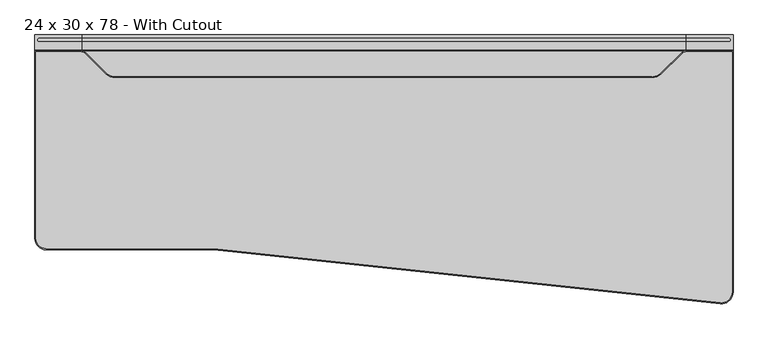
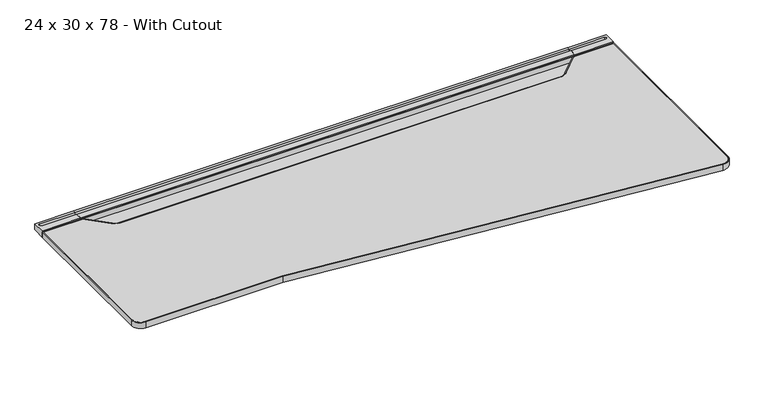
"""IFC4 building model written with IfcOpenShell, lengths in millimetres: furniture geometry, Steelcase - C Scape - Desking - Right Hand Transition - Non Sliding : 24 x 30 x 78 - With Cutout."""

from ifc_helpers import new_model, si_unit, point, frame, frame_2d, origin, place, context, project, spatial, polyline, circle_curve, trimmed, segment, composite_curve, outline, extrude, faceted_brep, source, transform, mapped, element, save
from ifc_brep_helpers import plane_surface, revolved_surface, advanced_brep


def furniture_24_x_30_x_78_with_cutout_9f279deb(model_context):
    return source(origin(), model_context, "Body", "SolidModel", [
        advanced_brep(
        [(1848.1802124, -45.3135132, 703.3768), (1848.1802124, -45.3135132, 722.4268341), (1848.1802124, -42.7750923, 722.4268341), (1848.1802124, -42.7750923, 725.932), (1848.1802124, -19.3290527, 725.932), (1848.1802124, -19.3290527, 713.486), (1848.1802124, -8.5111084, 713.486), (1848.1802124, -8.5111084, 725.932), (1848.1802124, 0.0, 725.932), (1848.1802124, 0.0, 705.1038636), (1848.1802124, -3.2278472, 705.1038636), (1848.1802124, -4.0331902, 703.3768), (1981.2, -45.3135132, 703.3768), (1981.2, -4.0331902, 703.3768), (1981.2, -3.2278472, 705.1038636), (1981.2, 0.0, 705.1038636), (1981.2, 0.0, 725.932), (1981.2, -42.7750923, 725.932), (1981.2, -42.7750923, 722.4268341), (1981.2, -45.3135132, 722.4268341), (1969.4379272, -8.5111084, 725.932), (1969.4379272, -19.3290527, 725.932), (1969.4379272, -19.3290527, 713.486), (1969.4379272, -8.5111084, 713.486)],
        [
            (0, 1),
            (1, 2),
            (2, 3),
            (3, 4),
            (4, 5),
            (5, 6),
            (6, 7),
            (7, 8),
            (8, 9),
            (9, 10),
            (10, 11),
            (11, 0),
            (12, 13),
            (13, 14),
            (14, 15),
            (15, 16),
            (16, 17),
            (17, 18),
            (18, 19),
            (19, 12),
            (11, 13),
            (12, 0),
            (10, 14),
            (9, 15),
            (8, 16),
            (7, 20),
            (20, 21, circle_curve(frame((1969.4379272, -13.9200806, 725.932), z_axis=(0.0, 0.0, -1.0), x_axis=(-1.0, 0.0, 0.0)), 5.4089722)),
            (21, 4),
            (3, 17),
            (2, 18),
            (1, 19),
            (5, 22),
            (22, 23, circle_curve(frame((1969.4379272, -13.9200806, 713.486), z_axis=(0.0, 0.0, 1.0), x_axis=(-1.0, 0.0, 0.0)), 5.4089722)),
            (23, 6),
            (23, 20),
            (22, 21),
        ],
        [
            plane_surface(frame((1848.1802124, -45.3135132, 703.3768), z_axis=(-1.0, 0.0, 0.0), x_axis=(0.0, 1.0, 0.0))),
            plane_surface(frame((1981.2, -45.3135132, 703.3768), z_axis=(1.0, 0.0, 0.0), x_axis=(0.0, -1.0, 0.0))),
            plane_surface(frame((1848.1802124, -45.3135132, 703.3768), z_axis=(0.0, 0.0, -1.0), x_axis=(1.0, 0.0, 0.0))),
            plane_surface(frame((1848.1802124, -4.0331902, 703.3768), z_axis=(0.0, 0.9063077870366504, -0.4226182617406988), x_axis=(1.0, 0.0, 0.0))),
            plane_surface(frame((1848.1802124, -3.2278472, 705.1038636), z_axis=(0.0, 0.0, -1.0), x_axis=(1.0, 0.0, 0.0))),
            plane_surface(frame((1848.1802124, 0.0, 705.1038636), z_axis=(0.0, 1.0, 0.0), x_axis=(1.0, 0.0, 0.0))),
            plane_surface(frame((1848.1802124, 0.0, 725.932), z_axis=(0.0, 0.0, 1.0), x_axis=(1.0, 0.0, 0.0))),
            plane_surface(frame((1848.1802124, -42.7750923, 725.932), z_axis=(0.0, -1.0, 0.0), x_axis=(1.0, 0.0, 0.0))),
            plane_surface(frame((1848.1802124, -42.7750923, 722.4268341), z_axis=(0.0, 0.0, 1.0), x_axis=(1.0, 0.0, 0.0))),
            plane_surface(frame((1848.1802124, -45.3135132, 722.4268341), z_axis=(0.0, -1.0, 0.0), x_axis=(1.0, 0.0, 0.0))),
            plane_surface(frame((1969.4379272, -8.5111084, 713.486), z_axis=(0.0, 0.0, 1.0), x_axis=(-1.0, 0.0, 0.0))),
            plane_surface(frame((1848.1802124, -8.5111084, 731.2180541), z_axis=(0.0, -1.0, 0.0), x_axis=(0.0, 0.0, -1.0))),
            revolved_surface(polyline([(1964.028955, -13.9200806, 725.932), (1964.028955, -13.9200806, 713.486)]), (1969.4379272, -13.9200806, 713.486), (0.0, 0.0, 1.0)),
            plane_surface(frame((1969.4379272, -19.3290527, 731.2180541), z_axis=(0.0, 1.0, 0.0), x_axis=(0.0, 0.0, -1.0))),
        ],
        [
            (0, [[1, 2, 3, 4, 5, 6, 7, 8, 9, 10, 11, 12]]),
            (1, [[13, 14, 15, 16, 17, 18, 19, 20]]),
            (2, [[21, -13, 22, -12]]),
            (3, [[23, -14, -21, -11]]),
            (4, [[24, -15, -23, -10]]),
            (5, [[25, -16, -24, -9]]),
            (6, [[-25, -8, 26, 27, 28, -4, 29, -17]]),
            (7, [[30, -18, -29, -3]]),
            (8, [[31, -19, -30, -2]]),
            (9, [[-22, -20, -31, -1]]),
            (10, [[-6, 32, 33, 34]]),
            (11, [[35, -26, -7, -34]]),
            (12, [[36, -27, -35, -33]]),
            (13, [[-5, -28, -36, -32]]),
        ],
    ),
        faceted_brep([(1962.1492368, -565.0752923, 700.7093833), (1962.1492368, -565.0752923, 703.3768), (1848.1802124, -565.0752923, 703.3768), (1848.1802124, -565.0752923, 679.3263935), (1863.8143699, -565.0752923, 679.3263935), (1866.4349121, -565.0752923, 693.4200291), (1947.8741272, -565.0752923, 693.4200291), (1962.1492368, -4.0331902, 700.7093833), (1947.8741272, -4.0331902, 693.4200291), (1866.4349121, -4.0331902, 693.4200291), (1854.5286653, -4.0331902, 629.3866), (1848.1802124, -4.0331902, 629.3866), (1848.1802124, -4.0331902, 703.3768), (1962.1492368, -4.0331902, 703.3768), (1861.6490949, -376.5599397, 667.6812472), (1854.5286653, -364.1172546, 629.3866), (1848.1802124, -364.1172546, 629.3866), (1848.1802124, -376.5599397, 667.6812472)], [[[0, 1, 2, 3, 4, 5, 6]], [[7, 8, 9, 10, 11, 12, 13]], [[6, 8, 7, 0]], [[5, 9, 8, 6]], [[9, 5, 4, 14, 15, 10]], [[10, 15, 16, 11]], [[11, 16, 17, 3, 2, 12]], [[1, 13, 12, 2]], [[0, 7, 13, 1]], [[14, 4, 3, 17]], [[17, 16, 15, 14]]]),
        extrude(outline(composite_curve([segment(polyline([(-293.5216187, 657.3775839), (-559.0022133, 680.1371551)]), True, "CONTINUOUS"), segment(trimmed(circle_curve(frame_2d((-558.7581271, 682.9843154)), 2.8576039), [point((-559.0022133, 680.1371551))], [point((-561.5383043, 682.3236226))], False, "CARTESIAN"), True, "CONTINUOUS"), segment(polyline([(-561.5383043, 682.3236226), (-566.0887542, 701.4717905), (-557.8334441, 701.4717905), (-557.8334441, 703.3768), (-442.6683806, 703.3768), (-442.6683806, 696.3917953), (-318.2108611, 696.3917953), (-318.2108611, 703.3768), (-293.5216187, 703.3768), (-293.5216187, 657.3775839)]), True, "CONTINUOUS")], self_intersect=False)), frame((954.024, 0.0, 0.0), z_axis=(1.0, 0.0, 0.0), x_axis=(0.0, 1.0, 0.0)), (0.0, 0.0, 1.0), 73.152),
        advanced_brep(
        [(133.0197876, -45.3135132, 703.3768), (133.0197876, -4.0331902, 703.3768), (133.0197876, -3.2278472, 705.1038636), (133.0197876, 0.0, 705.1038636), (133.0197876, 0.0, 725.932), (133.0197876, -8.5111084, 725.932), (133.0197876, -8.5111084, 713.486), (133.0197876, -19.3290527, 713.486), (133.0197876, -19.3290527, 725.932), (133.0197876, -42.7750923, 725.932), (133.0197876, -42.7750923, 722.4268341), (133.0197876, -45.3135132, 722.4268341), (0.0, -45.3135132, 703.3768), (0.0, -45.3135132, 722.4268341), (0.0, -42.7750923, 722.4268341), (0.0, -42.7750923, 725.932), (0.0, 0.0, 725.932), (0.0, 0.0, 705.1038636), (0.0, -3.2278472, 705.1038636), (0.0, -4.0331902, 703.3768), (11.7620728, -19.3290527, 725.932), (11.7620728, -8.5111084, 725.932), (11.7620728, -8.5111084, 713.486), (11.7620728, -19.3290527, 713.486)],
        [
            (0, 1),
            (1, 2),
            (2, 3),
            (3, 4),
            (4, 5),
            (5, 6),
            (6, 7),
            (7, 8),
            (8, 9),
            (9, 10),
            (10, 11),
            (11, 0),
            (12, 13),
            (13, 14),
            (14, 15),
            (15, 16),
            (16, 17),
            (17, 18),
            (18, 19),
            (19, 12),
            (0, 12),
            (19, 1),
            (18, 2),
            (17, 3),
            (16, 4),
            (15, 9),
            (8, 20),
            (20, 21, circle_curve(frame((11.7620728, -13.9200806, 725.932), z_axis=(0.0, 0.0, -1.0), x_axis=(1.0, 0.0, 0.0)), 5.4089722)),
            (21, 5),
            (14, 10),
            (13, 11),
            (6, 22),
            (22, 23, circle_curve(frame((11.7620728, -13.9200806, 713.486), z_axis=(0.0, 0.0, 1.0), x_axis=(1.0, 0.0, 0.0)), 5.4089722)),
            (23, 7),
            (21, 22),
            (20, 23),
        ],
        [
            plane_surface(frame((133.0197876, -45.3135132, 703.3768), z_axis=(1.0, 0.0, 0.0), x_axis=(0.0, 1.0, 0.0))),
            plane_surface(frame((0.0, -45.3135132, 703.3768), z_axis=(-1.0, 0.0, 0.0), x_axis=(0.0, -1.0, 0.0))),
            plane_surface(frame((133.0197876, -45.3135132, 703.3768), z_axis=(0.0, 0.0, -1.0), x_axis=(-1.0, 0.0, 0.0))),
            plane_surface(frame((133.0197876, -4.0331902, 703.3768), z_axis=(0.0, 0.9063077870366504, -0.4226182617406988), x_axis=(-1.0, 0.0, 0.0))),
            plane_surface(frame((133.0197876, -3.2278472, 705.1038636), z_axis=(0.0, 0.0, -1.0), x_axis=(-1.0, 0.0, 0.0))),
            plane_surface(frame((133.0197876, 0.0, 705.1038636), z_axis=(0.0, 1.0, 0.0), x_axis=(-1.0, 0.0, 0.0))),
            plane_surface(frame((133.0197876, 0.0, 725.932), z_axis=(0.0, 0.0, 1.0), x_axis=(-1.0, 0.0, 0.0))),
            plane_surface(frame((133.0197876, -42.7750923, 725.932), z_axis=(0.0, -1.0, 0.0), x_axis=(-1.0, 0.0, 0.0))),
            plane_surface(frame((133.0197876, -42.7750923, 722.4268341), z_axis=(0.0, 0.0, 1.0), x_axis=(-1.0, 0.0, 0.0))),
            plane_surface(frame((133.0197876, -45.3135132, 722.4268341), z_axis=(0.0, -1.0, 0.0), x_axis=(-1.0, 0.0, 0.0))),
            plane_surface(frame((11.7620728, -8.5111084, 713.486), z_axis=(0.0, 0.0, 1.0), x_axis=(1.0, 0.0, 0.0))),
            plane_surface(frame((133.0197876, -8.5111084, 731.2180541), z_axis=(0.0, -1.0, 0.0), x_axis=(0.0, 0.0, -1.0))),
            revolved_surface(polyline([(17.171045, -13.9200806, 725.932), (17.171045, -13.9200806, 713.486)]), (11.7620728, -13.9200806, 713.486), (0.0, 0.0, 1.0)),
            plane_surface(frame((11.7620728, -19.3290527, 731.2180541), z_axis=(0.0, 1.0, 0.0), x_axis=(0.0, 0.0, -1.0))),
        ],
        [
            (0, [[1, 2, 3, 4, 5, 6, 7, 8, 9, 10, 11, 12]]),
            (1, [[13, 14, 15, 16, 17, 18, 19, 20]]),
            (2, [[-1, 21, -20, 22]]),
            (3, [[-2, -22, -19, 23]]),
            (4, [[-3, -23, -18, 24]]),
            (5, [[-4, -24, -17, 25]]),
            (6, [[-16, 26, -9, 27, 28, 29, -5, -25]]),
            (7, [[-10, -26, -15, 30]]),
            (8, [[-11, -30, -14, 31]]),
            (9, [[-12, -31, -13, -21]]),
            (10, [[32, 33, 34, -7]]),
            (11, [[-32, -6, -29, 35]]),
            (12, [[-33, -35, -28, 36]]),
            (13, [[-34, -36, -27, -8]]),
        ],
    ),
        faceted_brep([(19.0507632, -565.0752923, 700.7093833), (33.3258728, -565.0752923, 693.4200291), (114.7650879, -565.0752923, 693.4200291), (117.3856301, -565.0752923, 679.3263935), (133.0197876, -565.0752923, 679.3263935), (133.0197876, -565.0752923, 703.3768), (19.0507632, -565.0752923, 703.3768), (19.0507632, -4.0331902, 700.7093833), (19.0507632, -4.0331902, 703.3768), (133.0197876, -4.0331902, 703.3768), (133.0197876, -4.0331902, 629.3866), (126.6713347, -4.0331902, 629.3866), (114.7650879, -4.0331902, 693.4200291), (33.3258728, -4.0331902, 693.4200291), (126.6713347, -364.1172546, 629.3866), (119.5509051, -376.5599397, 667.6812472), (133.0197876, -364.1172546, 629.3866), (133.0197876, -376.5599397, 667.6812472)], [[[0, 1, 2, 3, 4, 5, 6]], [[7, 8, 9, 10, 11, 12, 13]], [[1, 0, 7, 13]], [[2, 1, 13, 12]], [[12, 11, 14, 15, 3, 2]], [[11, 10, 16, 14]], [[10, 9, 5, 4, 17, 16]], [[6, 5, 9, 8]], [[0, 6, 8, 7]], [[15, 17, 4, 3]], [[17, 15, 14, 16]]]),
        extrude(outline(polyline([(-8.5111084, 725.932), (0.0, 725.932), (0.0, 705.1038636), (-3.2278472, 705.1038636), (-4.0331902, 703.3768), (-45.3135132, 703.3768), (-45.3135132, 722.4268341), (-42.7750923, 722.4268341), (-42.7750923, 725.932), (-19.3290527, 725.932), (-19.3290527, 713.486), (-8.5111084, 713.486), (-8.5111084, 725.932)])), frame((133.6675, 0.0, 0.0), z_axis=(1.0, 0.0, 0.0), x_axis=(0.0, 1.0, 0.0)), (0.0, 0.0, 1.0), 1712.9252124),
        extrude(outline(polyline([(133.6675, -293.5216187), (133.6675, -4.0331902), (1846.5927124, -4.0331902), (1846.5927124, -293.5216187), (133.6675, -293.5216187)])), frame((0.0, 0.0, 629.3866), z_axis=(0.0, 0.0, 1.0), x_axis=(1.0, 0.0, 0.0)), (0.0, 0.0, 1.0), 73.9902),
        extrude(outline(composite_curve([segment(polyline([(508.0002405, -606.5490234), (31.8007993, -606.5490234)]), True, "CONTINUOUS"), segment(trimmed(circle_curve(frame_2d((31.8007993, -577.7962241)), 28.7527993), [point((31.8007993, -606.5490234))], [point((3.048, -577.7962241))], False, "CARTESIAN"), True, "CONTINUOUS"), segment(polyline([(3.048, -577.7962241), (3.048, -48.3660689), (131.6700001, -48.3660689)]), True, "CONTINUOUS"), segment(trimmed(circle_curve(frame_2d((131.6700001, -63.6060689)), 15.24), [point((131.6700001, -48.3660689))], [point((142.4463079, -52.8297619))], False, "CARTESIAN"), True, "CONTINUOUS"), segment(polyline([(142.4463079, -52.8297619), (199.9201078, -110.303566)]), True, "CONTINUOUS"), segment(trimmed(circle_curve(frame_2d((226.8608771, -83.3627986)), 38.1), [point((199.9201078, -110.303566))], [point((226.8608771, -121.4627986))], True, "CARTESIAN"), True, "CONTINUOUS"), segment(polyline([(226.8608771, -121.4627986), (1751.8835261, -121.4627986)]), True, "CONTINUOUS"), segment(trimmed(circle_curve(frame_2d((1751.8835261, -83.3627986)), 38.1), [point((1751.8835261, -121.4627986))], [point((1778.8242945, -110.303567))], True, "CARTESIAN"), True, "CONTINUOUS"), segment(polyline([(1778.8242945, -110.303567), (1836.3588568, -52.7690046)]), True, "CONTINUOUS"), segment(trimmed(circle_curve(frame_2d((1846.988484, -63.3986318)), 15.0325629), [point((1836.3588568, -52.7690046))], [point((1846.988484, -48.3660689))], False, "CARTESIAN"), True, "CONTINUOUS"), segment(polyline([(1846.988484, -48.3660689), (1978.152, -48.3660689), (1978.152, -730.055403)]), True, "CONTINUOUS"), segment(trimmed(circle_curve(frame_2d((1948.6234075, -730.055403)), 29.5285925), [point((1978.152, -730.055403))], [point((1945.5008291, -759.4184287))], False, "CARTESIAN"), True, "CONTINUOUS"), segment(polyline([(1945.5008291, -759.4184287), (508.0002405, -606.5490234)]), True, "CONTINUOUS")], self_intersect=False)), frame((0.0, 0.0, 703.3768), z_axis=(0.0, 0.0, 1.0), x_axis=(1.0, 0.0, 0.0)), (0.0, 0.0, 1.0), 20.5232),
        extrude(outline(composite_curve([segment(polyline([(1750.0564053, -118.4118221), (1750.0564053, -121.4627986), (223.9255059, -121.4627986)]), True, "CONTINUOUS"), segment(trimmed(circle_curve(frame_2d((223.9255059, -90.4494114)), 31.0133872), [point((223.9255059, -121.4627986))], [point((201.9957286, -112.379187))], False, "CARTESIAN"), True, "CONTINUOUS"), segment(polyline([(201.9957286, -112.379187), (142.3719136, -52.7553676)]), True, "CONTINUOUS"), segment(trimmed(circle_curve(frame_2d((131.5389064, -63.588374)), 15.3201851), [point((142.3719136, -52.7553676))], [point((133.2679227, -48.3660689))], True, "CARTESIAN"), True, "CONTINUOUS"), segment(polyline([(133.2679227, -48.3660689), (3.048, -48.3660689), (3.048, -577.7962241)]), True, "CONTINUOUS"), segment(trimmed(circle_curve(frame_2d((31.8007993, -577.7962241)), 28.7527993), [point((3.048, -577.7962241))], [point((31.8007993, -606.5490234))], True, "CARTESIAN"), True, "CONTINUOUS"), segment(polyline([(31.8007993, -606.5490234), (508.0002405, -606.5490234), (1945.5008291, -759.4184287)]), True, "CONTINUOUS"), segment(trimmed(circle_curve(frame_2d((1948.6234075, -730.055403)), 29.5285925), [point((1945.5008291, -759.4184287))], [point((1978.152, -730.055403))], True, "CARTESIAN"), True, "CONTINUOUS"), segment(polyline([(1978.152, -730.055403), (1978.152, -48.3660689), (1845.8053399, -48.3660689)]), True, "CONTINUOUS"), segment(trimmed(circle_curve(frame_2d((1845.8053399, -64.5758622)), 16.2097933), [point((1845.8053399, -48.3660689))], [point((1839.4743869, -49.6535154))], True, "CARTESIAN"), True, "CONTINUOUS"), segment(polyline([(1839.4743869, -49.6535154), (1776.7486586, -112.3792028)]), True, "CONTINUOUS"), segment(trimmed(circle_curve(frame_2d((1754.8189084, -90.4494383)), 31.0133604), [point((1776.7486586, -112.3792028))], [point((1754.8189084, -121.4627986))], False, "CARTESIAN"), True, "CONTINUOUS"), segment(polyline([(1754.8189084, -121.4627986), (1754.8189084, -118.4118221)]), True, "CONTINUOUS"), segment(trimmed(circle_curve(frame_2d((1754.8189084, -90.4494383)), 27.9623838), [point((1754.8189084, -118.4118221))], [point((1774.5912931, -110.2218359))], True, "CARTESIAN"), True, "CONTINUOUS"), segment(polyline([(1774.5912931, -110.2218359), (1837.717872, -47.0952981)]), True, "CONTINUOUS"), segment(trimmed(circle_curve(frame_2d((1845.8053399, -64.5758622)), 19.2607699), [point((1837.717872, -47.0952981))], [point((1845.8053399, -45.3150923))], False, "CARTESIAN"), True, "CONTINUOUS"), segment(polyline([(1845.8053399, -45.3150923), (1981.2029766, -45.3150923), (1981.2029766, -730.055403)]), True, "CONTINUOUS"), segment(trimmed(circle_curve(frame_2d((1948.6234075, -730.055403)), 32.5795691), [point((1981.2029766, -730.055403))], [point((1945.1781956, -762.4522984))], False, "CARTESIAN"), True, "CONTINUOUS"), segment(polyline([(1945.1781956, -762.4522984), (507.8384703, -609.6), (31.8007993, -609.6)]), True, "CONTINUOUS"), segment(trimmed(circle_curve(frame_2d((31.8007993, -577.7962241)), 31.8037759), [point((31.8007993, -609.6))], [point((-0.0029766, -577.7962241))], False, "CARTESIAN"), True, "CONTINUOUS"), segment(polyline([(-0.0029766, -577.7962241), (-0.0029766, -45.3150923), (133.4327798, -45.3150923)]), True, "CONTINUOUS"), segment(trimmed(circle_curve(frame_2d((131.5389064, -63.588374)), 18.3711616), [point((133.4327798, -45.3150923))], [point((144.5292799, -50.5980015))], False, "CARTESIAN"), True, "CONTINUOUS"), segment(polyline([(144.5292799, -50.5980015), (204.1530949, -110.2218209)]), True, "CONTINUOUS"), segment(trimmed(circle_curve(frame_2d((223.9255059, -90.4494114)), 27.9624107), [point((204.1530949, -110.2218209))], [point((223.9255059, -118.4118221))], True, "CARTESIAN"), True, "CONTINUOUS"), segment(polyline([(223.9255059, -118.4118221), (1750.0564053, -118.4118221)]), True, "CONTINUOUS")], self_intersect=False)), frame((0.0, 0.0, 703.3768), z_axis=(0.0, 0.0, 1.0), x_axis=(1.0, 0.0, 0.0)), (0.0, 0.0, 1.0), 20.5232),
    ])


if __name__ == "__main__":
    model = new_model("IFC4")
    model_context = context("Model", 3, world=origin())
    ifc_project = project(units=[si_unit("LENGTHUNIT", "METRE", prefix="MILLI")], contexts=[model_context])
    site = spatial("IfcSite", under=ifc_project)
    building = spatial("IfcBuilding", under=site)
    placement = place(None, origin())
    furniture_24_x_30_x_78_with_cutout_shape = furniture_24_x_30_x_78_with_cutout_9f279deb(model_context)
    element("IfcFurniture", 1, ObjectType="Steelcase - C Scape - Desking - Right Hand Transition - Non Sliding : 24 x 30 x 78 - With Cutout", at=placement, inside=building, context=model_context, shape_type="MappedRepresentation", body=[
        mapped(furniture_24_x_30_x_78_with_cutout_shape, transform((0.0, 0.0, 0.0), x_axis=(1.0, 0.0, 0.0), y_axis=(0.0, 1.0, 0.0), z_axis=(0.0, 0.0, 1.0))),
    ])
    save(model, "model.ifc")
